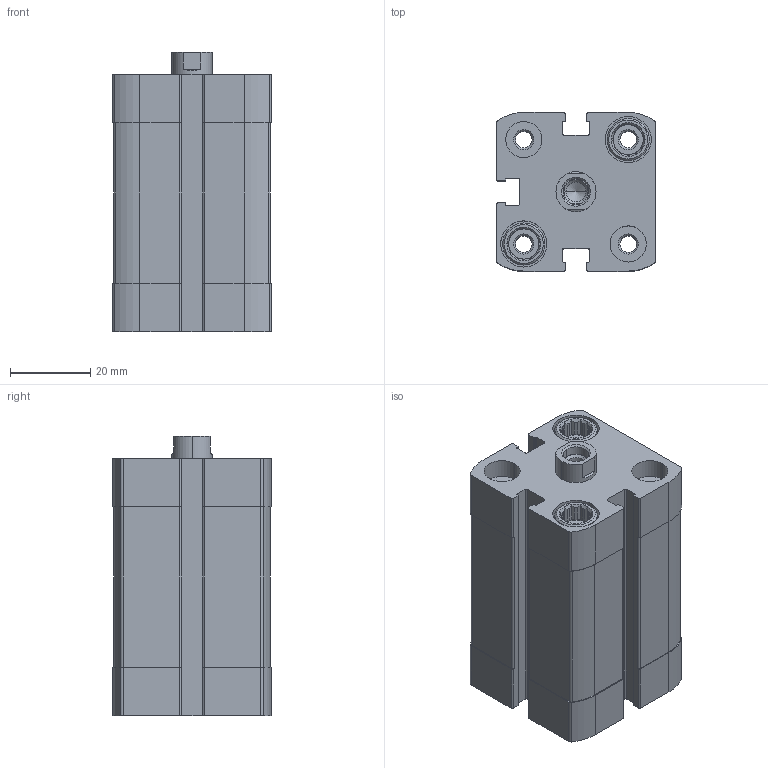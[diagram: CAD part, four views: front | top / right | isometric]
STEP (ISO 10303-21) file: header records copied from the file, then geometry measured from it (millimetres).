
FILE_DESCRIPTION (( 'STEP AP203' ), '1' );
FILE_NAME ('CCN25-25F.STEP', '2017-03-28T17:23:25', ( '' ), ( '' ), 'SwSTEP 2.0', 'SolidWorks 2016', '' );
FILE_SCHEMA (( 'CONFIG_CONTROL_DESIGN' ));
Length unit declared in the file: millimetre
Products named in the file (3): CCN-25---(Z); CCN-25_(KS); CCN25-25F
Assembly tree (2 placements, depth 2):
  CCN25-25F
    CCN-25---(Z)
    CCN-25_(KS)
Bounding box: 39.5 x 39.5 x 69.5 mm (x, y, z)
Volume: 73565.8 mm3; surface area: 28478.7 mm2
Topology: 2 solids, 2 shells, 407 faces, 1088 edges, 715 vertices
Faces by surface type: plane 231, cylinder 134, cone 42
Entity records: 13201 total; most frequent: CARTESIAN_POINT 2507, DIRECTION 2232, ORIENTED_EDGE 2172, EDGE_CURVE 1086, AXIS2_PLACEMENT_3D 832, VERTEX_POINT 715, VECTOR 568, LINE 568
